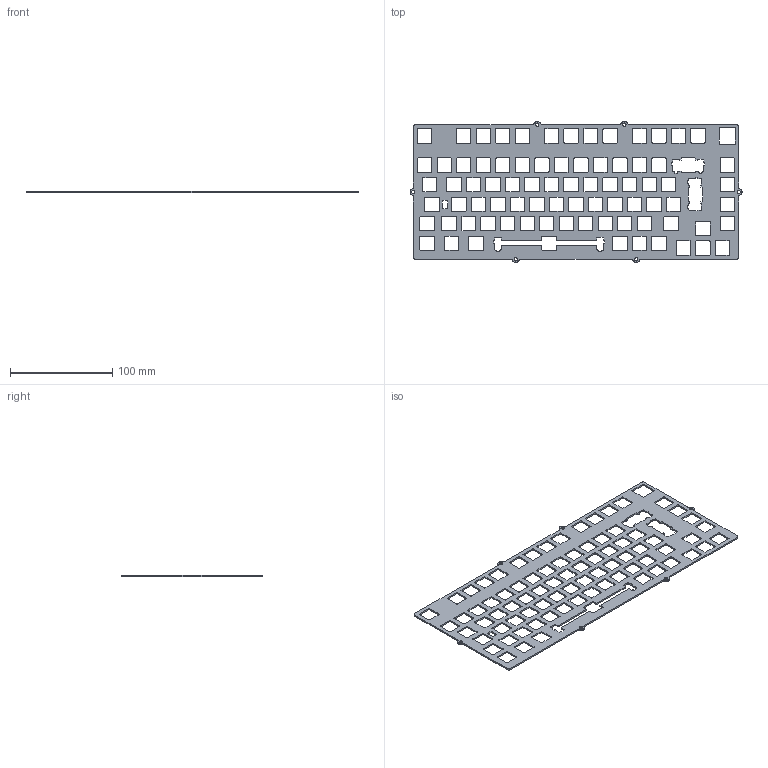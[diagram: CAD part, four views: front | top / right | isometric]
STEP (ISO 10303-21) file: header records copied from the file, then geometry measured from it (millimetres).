
FILE_DESCRIPTION(('HOOPS Exchange Step'),'2;1');
FILE_NAME('/Users/carl/Library/Containers/com.shapr3d.shapr/Data/tmp/export/temp_export','2026-01-29T18:14:06+01:00',('carl'),('Shapr3D Limited'),'HOOPS Exchange 2025.7','Shapr3D','Authorized');
FILE_SCHEMA( ('AP242_MANAGED_MODEL_BASED_3D_ENGINEERING_MIM_LF {1 0 10303 442 1 1 4}') );
Length unit declared in the file: millimetre
Products named in the file (1): Plate
Bounding box: 324 x 138 x 1.5 mm (x, y, z)
Volume: 36735.9 mm3; surface area: 57810.8 mm2
Topology: 1 solids, 1 shells, 869 faces, 2613 edges, 1746 vertices
Faces by surface type: cylinder 435, plane 434
Full cylindrical faces by diameter (mm): 3.2 x6
Entity records: 30021 total; most frequent: DIRECTION 5237, CARTESIAN_POINT 5230, ORIENTED_EDGE 5226, EDGE_CURVE 2613, AXIS2_PLACEMENT_3D 1753, VERTEX_POINT 1746, VECTOR 1731, LINE 1731
